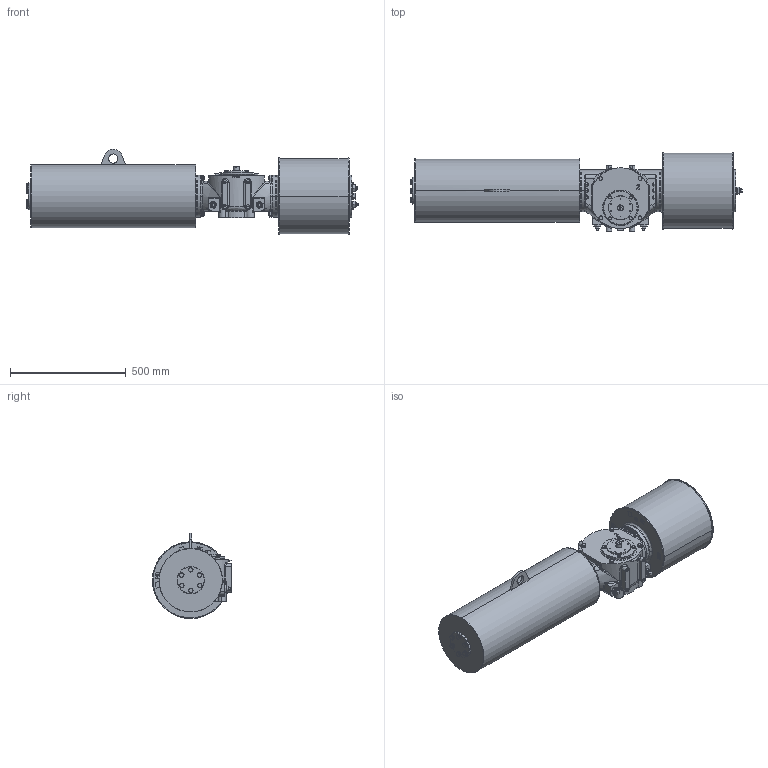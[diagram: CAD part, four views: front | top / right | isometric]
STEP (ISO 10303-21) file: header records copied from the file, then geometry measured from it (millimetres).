
FILE_DESCRIPTION (( 'STEP AP203' ), '1' );
FILE_NAME ('VTS2-300-SR-FO.STEP', '2023-01-01T07:49:42', ( '' ), ( '' ), 'SwSTEP 2.0', 'SolidWorks 2020', '' );
FILE_SCHEMA (( 'CONFIG_CONTROL_DESIGN' ));
Length unit declared in the file: millimetre
Products named in the file (1): VTS2-300-SR-FO
Bounding box: 1433.78 x 343 x 368.5 mm (x, y, z)
Volume: 79164139.3 mm3; surface area: 1776752.2 mm2
Topology: 4 solids, 6 shells, 1819 faces, 4617 edges, 2902 vertices
Faces by surface type: plane 705, cylinder 563, cone 390, bspline 161
Entity records: 70531 total; most frequent: CARTESIAN_POINT 27888, ORIENTED_EDGE 9134, DIRECTION 8728, EDGE_CURVE 4567, AXIS2_PLACEMENT_3D 3468, VERTEX_POINT 2902, EDGE_LOOP 2023, FACE_OUTER_BOUND 1819
